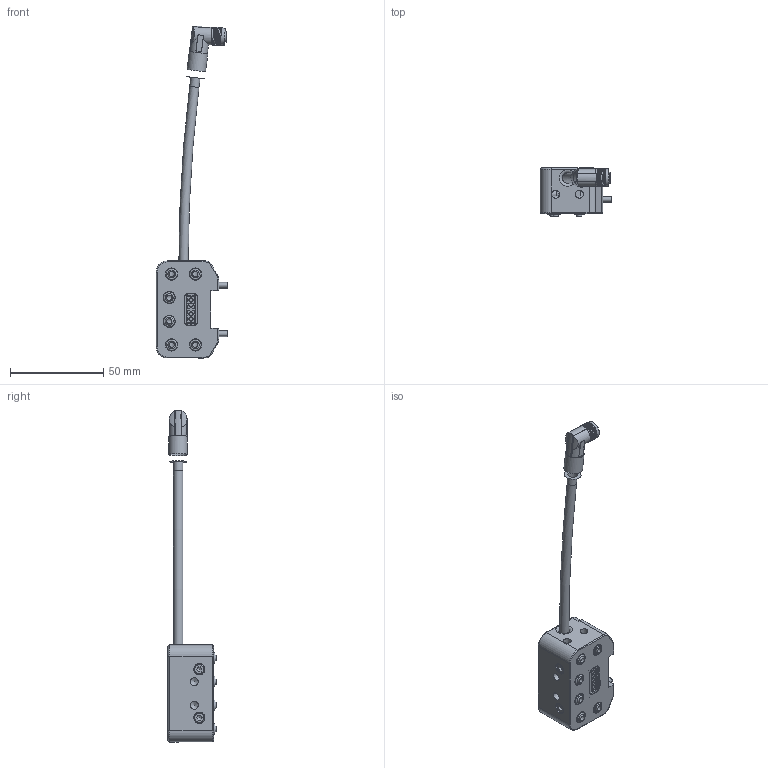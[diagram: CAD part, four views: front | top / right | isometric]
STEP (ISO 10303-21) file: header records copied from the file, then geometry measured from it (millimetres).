
FILE_DESCRIPTION(/* description */ (''),/* implementation_level */ '2;1');
FILE_NAME(/* name */ 'T:\CAD\Standard\SHW\SEK-P\SEK100\SEK100-6PM5-1FE12\G-SEK100-O-6PM5-1FE12-300-M8.step.stp',/* time_stamp */ '2022-02-15T14:34:54+01:00',/* author */ ('vbednarz'),/* organization */ (''),/* preprocessor_version */ 'ST-DEVELOPER v17',/* originating_system */ 'Autodesk Inventor 2018',/* authorisation */ '');
FILE_SCHEMA (('AUTOMOTIVE_DESIGN { 1 0 10303 214 3 1 1 }'));
Length unit declared in the file: millimetre
Products named in the file (1): G-SEK100-O-6PM5-1FE12-300-M8.step
Bounding box: 38.4 x 25.85 x 177.92 mm (x, y, z)
Volume: 38551.1 mm3; surface area: 18029 mm2
Topology: 4 solids, 20 shells, 807 faces, 2112 edges, 1421 vertices
Faces by surface type: plane 404, cylinder 307, cone 49, torus 33, bspline 14
Full cylindrical faces by diameter (mm): 0.7 x8, 1 x5, 1.35 x12, 1.8 x2, 1.83 x12, 2.02 x2, 2.05 x4, 2.5 x4, 2.8 x6, 2.9 x4, 3 x2, 3.4 x2, 4.2 x6, 4.5 x4, 5 x5, 5.5 x2, 5.8 x3, 6 x2, 6.5 x12, 7.75 x2, 9.35 x1, 10 x1
Entity records: 27338 total; most frequent: CARTESIAN_POINT 5806, DIRECTION 4516, ORIENTED_EDGE 4188, EDGE_CURVE 2094, AXIS2_PLACEMENT_3D 1720, VERTEX_POINT 1421, LINE 1076, VECTOR 1076
